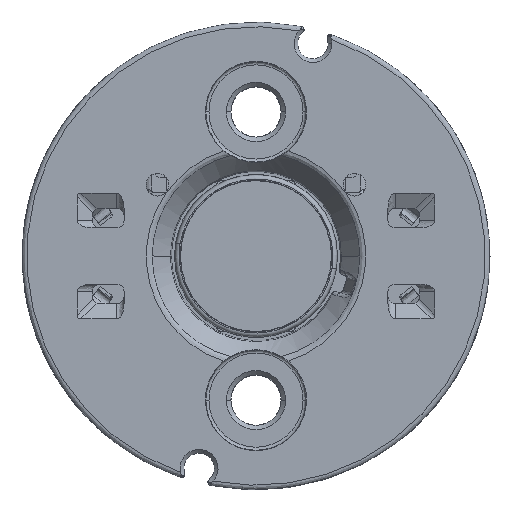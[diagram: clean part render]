
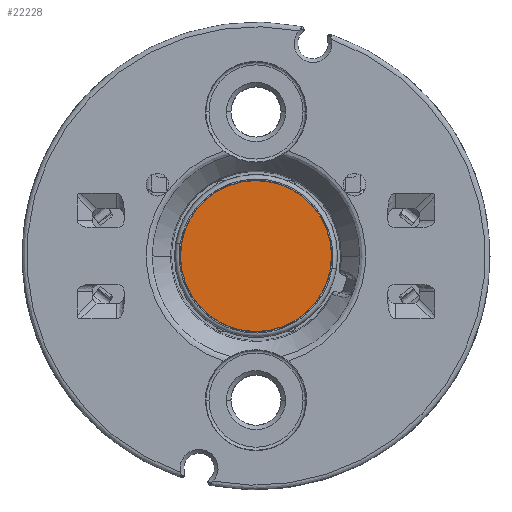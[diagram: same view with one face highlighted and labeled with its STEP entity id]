
A CAD part, top view. The second image highlights one B-rep face of the part: STEP entity #22228.
In plain terms, the highlighted planar face has unit normal (0, 0, 1).
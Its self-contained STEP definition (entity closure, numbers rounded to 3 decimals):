
#2060 = DIRECTION ( 'NONE',  ( 0., 0., 1. ) ) ;
#2252 = FACE_OUTER_BOUND ( 'NONE', #11930, .T. ) ;
#4363 = CIRCLE ( 'NONE', #61275, 4.975 ) ;
#9870 = PLANE ( 'NONE',  #43218 ) ;
#9913 = EDGE_CURVE ( 'NONE', #46078, #38991, #102890, .T. ) ;
#11930 = EDGE_LOOP ( 'NONE', ( #32817, #73823 ) ) ;
#17950 = CARTESIAN_POINT ( 'NONE',  ( 0., 0., 1.446 ) ) ;
#19652 = CARTESIAN_POINT ( 'NONE',  ( -4.915, 0.772, 1.446 ) ) ;
#22228 = ADVANCED_FACE ( 'NONE', ( #2252 ), #9870, .T. ) ;
#26195 = DIRECTION ( 'NONE',  ( 0.988, -0.155, 0. ) ) ;
#31034 = DIRECTION ( 'NONE',  ( 0., 0., 1. ) ) ;
#32817 = ORIENTED_EDGE ( 'NONE', *, *, #39106, .T. ) ;
#38517 = CARTESIAN_POINT ( 'NONE',  ( 4.915, -0.772, 1.446 ) ) ;
#38991 = VERTEX_POINT ( 'NONE', #19652 ) ;
#39106 = EDGE_CURVE ( 'NONE', #38991, #46078, #4363, .T. ) ;
#43218 = AXIS2_PLACEMENT_3D ( 'NONE', #50900, #2060, #59105 ) ;
#46078 = VERTEX_POINT ( 'NONE', #38517 ) ;
#50900 = CARTESIAN_POINT ( 'NONE',  ( 0., 0., 1.446 ) ) ;
#59105 = DIRECTION ( 'NONE',  ( 0.988, -0.155, 0. ) ) ;
#61275 = AXIS2_PLACEMENT_3D ( 'NONE', #79781, #31034, #87939 ) ;
#73823 = ORIENTED_EDGE ( 'NONE', *, *, #9913, .T. ) ;
#74863 = DIRECTION ( 'NONE',  ( 0., 0., 1. ) ) ;
#79781 = CARTESIAN_POINT ( 'NONE',  ( 0., 0., 1.446 ) ) ;
#87939 = DIRECTION ( 'NONE',  ( 0.988, -0.155, 0. ) ) ;
#96448 = AXIS2_PLACEMENT_3D ( 'NONE', #17950, #74863, #26195 ) ;
#102890 = CIRCLE ( 'NONE', #96448, 4.975 ) ;
